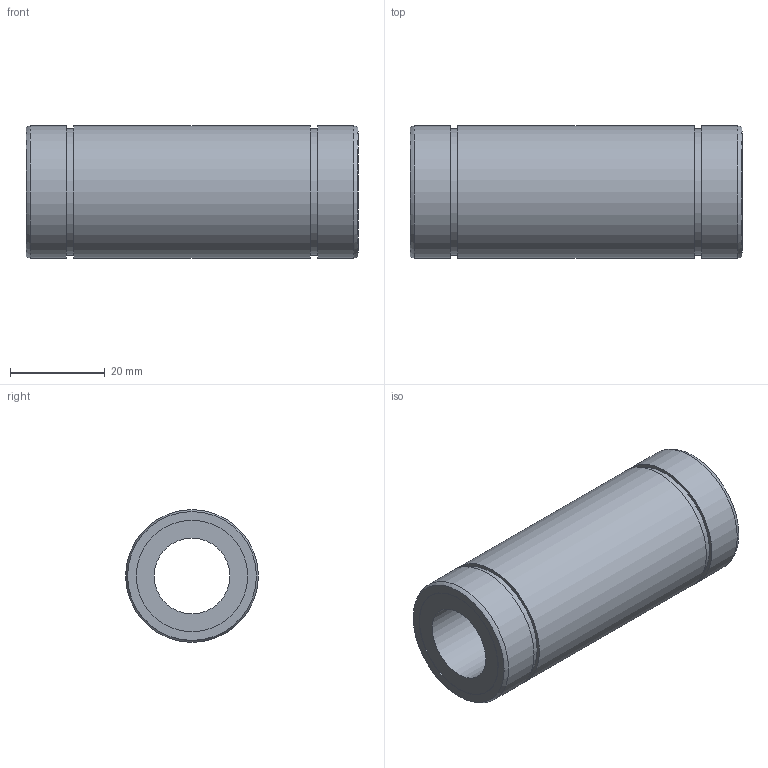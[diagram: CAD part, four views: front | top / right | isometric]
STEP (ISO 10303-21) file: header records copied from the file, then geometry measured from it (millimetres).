
FILE_DESCRIPTION((''),'2;1');
FILE_NAME('D:\製品 (図面)\カタログ用3D\リニアベアリング関連\STEP形式\LD\LD16.stp','2010-06-02T17:40:53',('Tsuchiya'),(''),'Autodesk Inventor 10','Autodesk Inventor 10','');
FILE_SCHEMA(('AUTOMOTIVE_DESIGN { 1 0 10303 214 1 1 1 1 }'));
Length unit declared in the file: millimetre
Products named in the file (1): LD16
Bounding box: 70 x 28 x 28 mm (x, y, z)
Volume: 28760.2 mm3; surface area: 10677.1 mm2
Topology: 1 solids, 1 shells, 18 faces, 28 edges, 18 vertices
Faces by surface type: plane 8, cylinder 8, torus 2
Full cylindrical faces by diameter (mm): 16 x1, 23.5 x2, 26.6 x2, 28 x3
Entity records: 391 total; most frequent: DIRECTION 74, CARTESIAN_POINT 55, AXIS2_PLACEMENT_3D 37, ORIENTED_EDGE 36, EDGE_LOOP 36, VERTEX_POINT 18, CIRCLE 18, EDGE_CURVE 18
